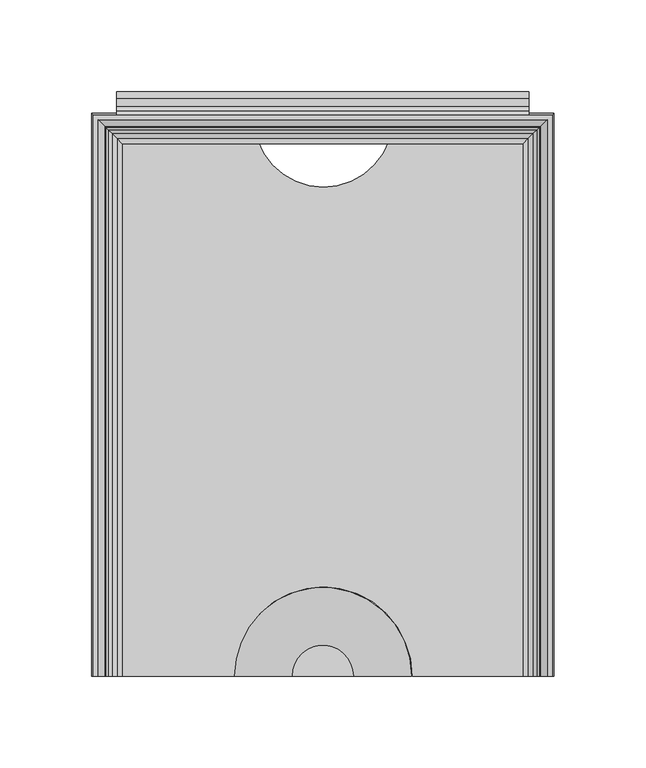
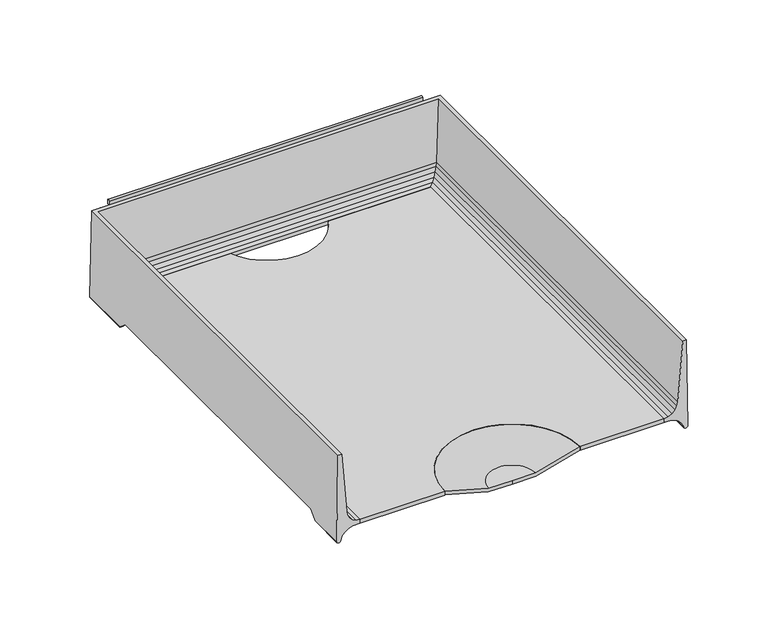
"""IFC4 building model written with IfcOpenShell, lengths in millimetres: furniture geometry."""

from ifc_helpers import new_model, si_unit, point, frame, frame_2d, origin, place, context, project, spatial, polyline, circle_curve, ellipse_curve, trimmed, segment, composite_curve, outline, extrude, source, transform, mapped, element, save
from ifc_brep_helpers import plane_surface, cylinder_surface, revolved_surface, advanced_brep


def furniture_32d38c57(model_context):
    return source(origin(), model_context, "Body", "SolidModel", [
        advanced_brep(
        [(126.0820502, -154.0206082, 933.1382489), (125.1325529, -154.0206082, 998.5376914), (122.4547921, -154.0206082, 998.5376914), (118.8379747, -154.0206082, 953.7506003), (118.4123648, -154.0206082, 951.0171052), (117.0774354, -154.0206082, 948.3160664), (114.9656457, -154.0206082, 946.1671015), (112.28832, -154.0206082, 944.7852261), (109.3133381, -154.0206082, 944.3087052), (109.3133381, -154.0206082, 941.4865971), (114.5666739, -154.0206082, 941.2935987), (117.605351, -154.0206082, 940.2372218), (120.2416, -154.0206082, 938.3933822), (122.2762142, -154.0206082, 935.9014079), (123.1625518, -154.0206082, 932.8581655), (126.0820502, -127.6379698, 933.1382489), (126.0026181, -121.5231874, 938.609372), (126.0026181, 109.0611937, 938.609372), (126.0820502, 115.1759816, 933.1382489), (126.0820502, 153.036442, 933.1382489), (125.1325529, 152.0869447, 998.5376914), (-125.1325529, 152.0869447, 998.5376914), (-125.1325529, -154.0206082, 998.5376914), (-122.4547921, -154.0206082, 998.5376914), (-122.4547921, 149.4091839, 998.5376914), (122.4547921, 149.4091839, 998.5376914), (118.8379747, 145.7923665, 953.7506003), (118.4123648, 145.3667566, 951.0171052), (117.0774354, 144.0318272, 948.3160664), (114.9656457, 141.9200375, 946.1671015), (112.28832, 139.2427118, 944.7852261), (109.3133381, 136.2677299, 944.3087052), (109.3133381, 136.2677299, 941.4865971), (114.5666739, 141.5210656, 941.2935987), (117.605351, 144.5597428, 940.2372218), (120.2416, 147.1959918, 938.3933822), (120.2416, 109.3025941, 938.3933822), (119.9327864, 109.0611937, 938.609372), (119.9327864, -121.5231874, 938.609372), (120.2416, -121.7645876, 938.3933822), (122.2762142, -124.5497344, 935.9014079), (122.2762142, 149.230606, 935.9014079), (122.2762142, 112.0877435, 935.9014079), (123.1625518, -127.9510041, 932.8581655), (123.1625518, 150.1169436, 932.8581655), (123.1625518, 115.4890162, 932.8581655), (-126.0820502, 153.036442, 933.1382489), (-118.8379747, 145.7923665, 953.7506003), (-118.4123648, 145.3667566, 951.0171052), (-117.0774354, 144.0318272, 948.3160664), (-114.9656457, 141.9200375, 946.1671015), (-112.28832, 139.2427118, 944.7852261), (-109.3133381, 136.2677299, 944.3087052), (-109.3133381, 136.2677299, 941.4865971), (-114.5666739, 141.5210656, 941.2935987), (-117.605351, 144.5597428, 940.2372218), (-120.2416, 147.1959918, 938.3933822), (-122.2762142, 149.230606, 935.9014079), (-123.1625518, 150.1169436, 932.8581655), (-126.0820502, -154.0206082, 933.1382489), (-123.1625518, -154.0206082, 932.8581655), (-122.2762142, -154.0206082, 935.9014079), (-120.2416, -154.0206082, 938.3933822), (-117.605351, -154.0206082, 940.2372218), (-114.5666739, -154.0206082, 941.2935987), (-109.3133381, -154.0206082, 941.4865971), (-109.3133381, -154.0206082, 944.3087052), (-112.28832, -154.0206082, 944.7852261), (-114.9656457, -154.0206082, 946.1671015), (-117.0774354, -154.0206082, 948.3160664), (-118.4123648, -154.0206082, 951.0171052), (-118.8379747, -154.0206082, 953.7506003), (-126.0820502, 115.1759816, 933.1382489), (-126.0026181, 109.0611937, 938.609372), (-126.0026181, -121.5231874, 938.609372), (-126.0820502, -127.6379698, 933.1382489), (-120.2416, -121.7645876, 938.3933822), (-119.9327864, -121.5231874, 938.609372), (-119.9327864, 109.0611937, 938.609372), (-120.2416, 109.3025941, 938.3933822), (-122.2762142, 112.0877435, 935.9014079), (-122.2762142, -124.5497344, 935.9014079), (-123.1625518, 115.4890162, 932.8581655), (-123.1625518, -127.9510041, 932.8581655)],
        [
            (0, 1),
            (1, 2),
            (2, 3),
            (3, 4),
            (4, 5),
            (5, 6),
            (6, 7),
            (7, 8),
            (8, 9),
            (9, 10),
            (10, 11),
            (11, 12),
            (12, 13),
            (13, 14),
            (14, 0, circle_curve(frame((124.5859452, -154.0206082, 933.3771685), z_axis=(0.0, -1.0, 0.0), x_axis=(-1.0, 0.0, 0.0)), 1.515062)),
            (0, 15),
            (15, 16),
            (16, 17),
            (17, 18),
            (18, 19),
            (19, 20),
            (20, 1),
            (20, 21),
            (21, 22),
            (22, 23),
            (23, 24),
            (24, 25),
            (25, 2),
            (25, 26),
            (26, 3),
            (26, 27),
            (27, 4),
            (27, 28),
            (28, 5),
            (28, 29),
            (29, 6),
            (29, 30),
            (30, 7),
            (30, 31),
            (31, 8),
            (31, 32),
            (32, 9),
            (32, 33),
            (33, 10),
            (33, 34),
            (34, 11),
            (34, 35),
            (35, 36),
            (36, 37),
            (37, 38),
            (38, 39),
            (39, 12),
            (39, 40),
            (40, 13),
            (35, 41),
            (41, 42),
            (42, 36),
            (40, 43),
            (43, 14),
            (41, 44),
            (44, 45),
            (45, 42),
            (43, 15, ellipse_curve(frame((124.5859452, -127.3709422, 933.3771685), z_axis=(0.0, -0.6667949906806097, 0.7452411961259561), x_axis=(0.0, -0.7452411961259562, -0.6667949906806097)), 2.2721556, 1.515062)),
            (44, 19, ellipse_curve(frame((124.5859452, 151.540337, 933.3771685), z_axis=(0.7071067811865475, -0.7071067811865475, 0.0), x_axis=(-0.7071067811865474, -0.7071067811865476, 0.0)), 2.1426212, 1.515062)),
            (18, 45, ellipse_curve(frame((124.5859452, 114.9089538, 933.3771685), z_axis=(0.0, 0.6667946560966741, 0.7452414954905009), x_axis=(0.0, -0.7452414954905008, 0.6667946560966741)), 2.2721567, 1.515062)),
            (19, 46),
            (46, 21),
            (24, 47),
            (47, 26),
            (47, 48),
            (48, 27),
            (48, 49),
            (49, 28),
            (49, 50),
            (50, 29),
            (50, 51),
            (51, 30),
            (51, 52),
            (52, 31),
            (52, 53),
            (53, 32),
            (53, 54),
            (54, 33),
            (54, 55),
            (55, 34),
            (55, 56),
            (56, 35),
            (56, 57),
            (57, 41),
            (57, 58),
            (58, 44),
            (58, 46, ellipse_curve(frame((-124.5859452, 151.540337, 933.3771685), z_axis=(0.7071067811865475, 0.7071067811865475, 0.0), x_axis=(0.7071067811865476, -0.7071067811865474, 0.0)), 2.1426212, 1.515062)),
            (22, 59),
            (59, 60, circle_curve(frame((-124.5859452, -154.0206082, 933.3771685), z_axis=(0.0, -1.0, 0.0), x_axis=(1.0, 0.0, 0.0)), 1.515062)),
            (60, 61),
            (61, 62),
            (62, 63),
            (63, 64),
            (64, 65),
            (65, 66),
            (66, 67),
            (67, 68),
            (68, 69),
            (69, 70),
            (70, 71),
            (71, 23),
            (46, 72),
            (72, 73),
            (73, 74),
            (74, 75),
            (75, 59),
            (71, 47),
            (70, 48),
            (69, 49),
            (68, 50),
            (67, 51),
            (66, 52),
            (65, 53),
            (64, 54),
            (63, 55),
            (62, 76),
            (76, 77),
            (77, 78),
            (78, 79),
            (79, 56),
            (79, 80),
            (80, 57),
            (61, 81),
            (81, 76),
            (80, 82),
            (82, 58),
            (60, 83),
            (83, 81),
            (82, 72, ellipse_curve(frame((-124.5859452, 114.9089538, 933.3771685), z_axis=(0.0, 0.6667946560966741, 0.7452414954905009), x_axis=(0.0, 0.7452414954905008, -0.6667946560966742)), 2.2721567, 1.515062)),
            (75, 83, ellipse_curve(frame((-124.5859452, -127.3709422, 933.3771685), z_axis=(0.0, -0.6667949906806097, 0.7452411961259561), x_axis=(0.0, 0.745241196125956, 0.6667949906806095)), 2.2721556, 1.515062)),
            (38, 16),
            (74, 77),
            (37, 17),
            (73, 78),
        ],
        [
            plane_surface(frame((127.0, -154.0206082, 931.8625), z_axis=(0.0, -1.0, 0.0), x_axis=(0.0, 0.0, 1.0))),
            plane_surface(frame((126.0820502, -154.0206082, 933.1382489), z_axis=(0.9998946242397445, 0.0, 0.01451690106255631), x_axis=(0.0, 1.0, 0.0))),
            plane_surface(frame((125.1325529, -154.0206082, 998.5376914), z_axis=(0.0, 0.0, 1.0), x_axis=(0.0, 1.0, 0.0))),
            plane_surface(frame((122.4547921, -154.0206082, 998.5376914), z_axis=(-0.9967551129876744, 0.0, 0.08049375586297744), x_axis=(0.0, 1.0, 0.0))),
            plane_surface(frame((118.8379747, -154.0206082, 953.7506003), z_axis=(-0.9880945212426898, 0.0, 0.15384803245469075), x_axis=(0.0, 1.0, 0.0))),
            plane_surface(frame((118.4123648, -154.0206082, 951.0171052), z_axis=(-0.8964873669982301, 0.0, 0.44306929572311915), x_axis=(0.0, 1.0, 0.0))),
            plane_surface(frame((117.0774354, -154.0206082, 948.3160664), z_axis=(-0.7132491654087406, 0.0, 0.7009105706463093), x_axis=(0.0, 1.0, 0.0))),
            plane_surface(frame((114.9656457, -154.0206082, 946.1671015), z_axis=(-0.45865074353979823, 0.0, 0.8886166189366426), x_axis=(0.0, 1.0, 0.0))),
            plane_surface(frame((112.28832, -154.0206082, 944.7852261), z_axis=(-0.15816001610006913, 0.0, 0.987413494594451), x_axis=(0.0, 1.0, 0.0))),
            plane_surface(frame((109.3133381, -154.0206082, 944.3087052), z_axis=(-1.0, 0.0, 0.0), x_axis=(0.0, 1.0, 0.0))),
            plane_surface(frame((109.3133381, -154.0206082, 941.4865971), z_axis=(-0.036713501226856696, 0.0, -0.9993258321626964), x_axis=(0.0, 1.0, 0.0))),
            plane_surface(frame((114.5666739, -154.0206082, 941.2935987), z_axis=(-0.3283669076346, 0.0, -0.9445502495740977), x_axis=(0.0, 1.0, 0.0))),
            plane_surface(frame((117.605351, -154.0206082, 940.2372218), z_axis=(-0.5731421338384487, 0.0, -0.819455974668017), x_axis=(0.0, 1.0, 0.0))),
            plane_surface(frame((120.2416, -154.0206082, 938.3933822), z_axis=(-0.77460799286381, 0.0, -0.6324416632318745), x_axis=(0.0, 1.0, 0.0))),
            plane_surface(frame((122.2762142, -154.0206082, 935.9014079), z_axis=(-0.9601080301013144, 0.0, -0.2796293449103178), x_axis=(0.0, 1.0, 0.0))),
            cylinder_surface(frame((124.5859452, -154.0206082, 933.3771685), z_axis=(0.0, -1.0, 0.0), x_axis=(-1.0, 0.0, 0.0)), 1.515062),
            plane_surface(frame((126.0820502, 153.036442, 933.1382489), z_axis=(0.0, 0.9998946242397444, 0.01451690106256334), x_axis=(-1.0, 0.0, 0.0))),
            plane_surface(frame((122.4547921, 149.4091839, 998.5376914), z_axis=(0.0, -0.9967551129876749, 0.08049375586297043), x_axis=(-1.0, 0.0, 0.0))),
            plane_surface(frame((118.8379747, 145.7923665, 953.7506003), z_axis=(0.0, -0.9880945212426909, 0.15384803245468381), x_axis=(-1.0, 0.0, 0.0))),
            plane_surface(frame((118.4123648, 145.3667566, 951.0171052), z_axis=(0.0, -0.8964873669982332, 0.4430692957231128), x_axis=(-1.0, 0.0, 0.0))),
            plane_surface(frame((117.0774354, 144.0318272, 948.3160664), z_axis=(0.0, -0.7132491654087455, 0.7009105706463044), x_axis=(-1.0, 0.0, 0.0))),
            plane_surface(frame((114.9656457, 141.9200375, 946.1671015), z_axis=(0.0, -0.4586507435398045, 0.8886166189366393), x_axis=(-1.0, 0.0, 0.0))),
            plane_surface(frame((112.28832, 139.2427118, 944.7852261), z_axis=(0.0, -0.15816001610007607, 0.9874134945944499), x_axis=(-1.0, 0.0, 0.0))),
            plane_surface(frame((109.3133381, 136.2677299, 944.3087052), z_axis=(0.0, -1.0, 0.0), x_axis=(-1.0, 0.0, 0.0))),
            plane_surface(frame((109.3133381, 136.2677299, 941.4865971), z_axis=(0.0, -0.03671350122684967, -0.9993258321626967), x_axis=(-1.0, 0.0, 0.0))),
            plane_surface(frame((114.5666739, 141.5210656, 941.2935987), z_axis=(0.0, -0.32836690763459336, -0.9445502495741), x_axis=(-1.0, 0.0, 0.0))),
            plane_surface(frame((117.605351, 144.5597428, 940.2372218), z_axis=(0.0, -0.5731421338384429, -0.819455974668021), x_axis=(-1.0, 0.0, 0.0))),
            plane_surface(frame((120.2416, 147.1959918, 938.3933822), z_axis=(0.0, -0.7746079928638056, -0.6324416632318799), x_axis=(-1.0, 0.0, 0.0))),
            plane_surface(frame((122.2762142, 149.230606, 935.9014079), z_axis=(0.0, -0.9601080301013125, -0.27962934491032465), x_axis=(-1.0, 0.0, 0.0))),
            cylinder_surface(frame((127.0, 151.540337, 933.3771685), z_axis=(1.0, 0.0, 0.0), x_axis=(0.0, -1.0, 0.0)), 1.515062),
            plane_surface(frame((-127.0, -154.0206082, 931.8625), z_axis=(0.0, -1.0, 0.0), x_axis=(0.0, 0.0, 1.0))),
            plane_surface(frame((-126.0820502, 153.036442, 933.1382489), z_axis=(-0.9998946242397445, 0.0, 0.01451690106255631), x_axis=(0.0, -1.0, 0.0))),
            plane_surface(frame((-122.4547921, 149.4091839, 998.5376914), z_axis=(0.9967551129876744, 0.0, 0.08049375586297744), x_axis=(0.0, -1.0, 0.0))),
            plane_surface(frame((-118.8379747, 145.7923665, 953.7506003), z_axis=(0.9880945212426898, 0.0, 0.15384803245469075), x_axis=(0.0, -1.0, 0.0))),
            plane_surface(frame((-118.4123648, 145.3667566, 951.0171052), z_axis=(0.8964873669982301, 0.0, 0.44306929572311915), x_axis=(0.0, -1.0, 0.0))),
            plane_surface(frame((-117.0774354, 144.0318272, 948.3160664), z_axis=(0.7132491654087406, 0.0, 0.7009105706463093), x_axis=(0.0, -1.0, 0.0))),
            plane_surface(frame((-114.9656457, 141.9200375, 946.1671015), z_axis=(0.45865074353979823, 0.0, 0.8886166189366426), x_axis=(0.0, -1.0, 0.0))),
            plane_surface(frame((-112.28832, 139.2427118, 944.7852261), z_axis=(0.15816001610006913, 0.0, 0.987413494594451), x_axis=(0.0, -1.0, 0.0))),
            plane_surface(frame((-109.3133381, 136.2677299, 944.3087052), z_axis=(1.0, 0.0, 0.0), x_axis=(0.0, -1.0, 0.0))),
            plane_surface(frame((-109.3133381, 136.2677299, 941.4865971), z_axis=(0.036713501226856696, 0.0, -0.9993258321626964), x_axis=(0.0, -1.0, 0.0))),
            plane_surface(frame((-114.5666739, 141.5210656, 941.2935987), z_axis=(0.3283669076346, 0.0, -0.9445502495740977), x_axis=(0.0, -1.0, 0.0))),
            plane_surface(frame((-117.605351, 144.5597428, 940.2372218), z_axis=(0.5731421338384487, 0.0, -0.819455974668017), x_axis=(0.0, -1.0, 0.0))),
            plane_surface(frame((-120.2416, 147.1959918, 938.3933822), z_axis=(0.77460799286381, 0.0, -0.6324416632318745), x_axis=(0.0, -1.0, 0.0))),
            plane_surface(frame((-122.2762142, 149.230606, 935.9014079), z_axis=(0.9601080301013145, 0.0, -0.2796293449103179), x_axis=(0.0, -1.0, 0.0))),
            cylinder_surface(frame((-124.5859452, 153.9543918, 933.3771685), z_axis=(0.0, 1.0, 0.0), x_axis=(1.0, 0.0, 0.0)), 1.515062),
            plane_surface(frame((-127.0, -130.1695728, 930.8731296), z_axis=(0.0, 0.6667949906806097, -0.7452411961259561), x_axis=(1.0, 0.0, 0.0))),
            plane_surface(frame((-127.0, -121.5231874, 938.609372), z_axis=(0.0, 0.0, -1.0), x_axis=(1.0, 0.0, 0.0))),
            plane_surface(frame((-127.0, 109.0611937, 938.609372), z_axis=(0.0, -0.6667946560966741, -0.7452414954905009), x_axis=(1.0, 0.0, 0.0))),
        ],
        [
            (0, [[1, 2, 3, 4, 5, 6, 7, 8, 9, 10, 11, 12, 13, 14, 15]]),
            (1, [[-1, 16, 17, 18, 19, 20, 21, 22]]),
            (2, [[-2, -22, 23, 24, 25, 26, 27, 28]]),
            (3, [[-3, -28, 29, 30]]),
            (4, [[-4, -30, 31, 32]]),
            (5, [[-5, -32, 33, 34]]),
            (6, [[-6, -34, 35, 36]]),
            (7, [[-7, -36, 37, 38]]),
            (8, [[-8, -38, 39, 40]]),
            (9, [[-9, -40, 41, 42]]),
            (10, [[-10, -42, 43, 44]]),
            (11, [[-11, -44, 45, 46]]),
            (12, [[-12, -46, 47, 48, 49, 50, 51, 52]]),
            (13, [[-13, -52, 53, 54]]),
            (13, [[55, 56, 57, -48]]),
            (14, [[-14, -54, 58, 59]]),
            (14, [[60, 61, 62, -56]]),
            (15, [[-15, -59, 63, -16]]),
            (15, [[64, -20, 65, -61]]),
            (16, [[-21, 66, 67, -23]]),
            (17, [[-27, 68, 69, -29]]),
            (18, [[-31, -69, 70, 71]]),
            (19, [[-33, -71, 72, 73]]),
            (20, [[-35, -73, 74, 75]]),
            (21, [[-37, -75, 76, 77]]),
            (22, [[-39, -77, 78, 79]]),
            (23, [[-41, -79, 80, 81]]),
            (24, [[-43, -81, 82, 83]]),
            (25, [[-45, -83, 84, 85]]),
            (26, [[-47, -85, 86, 87]]),
            (27, [[-55, -87, 88, 89]]),
            (28, [[-60, -89, 90, 91]]),
            (29, [[-64, -91, 92, -66]]),
            (30, [[-25, 93, 94, 95, 96, 97, 98, 99, 100, 101, 102, 103, 104, 105, 106]]),
            (31, [[-24, -67, 107, 108, 109, 110, 111, -93]]),
            (32, [[-26, -106, 112, -68]]),
            (33, [[-70, -112, -105, 113]]),
            (34, [[-72, -113, -104, 114]]),
            (35, [[-74, -114, -103, 115]]),
            (36, [[-76, -115, -102, 116]]),
            (37, [[-78, -116, -101, 117]]),
            (38, [[-80, -117, -100, 118]]),
            (39, [[-82, -118, -99, 119]]),
            (40, [[-84, -119, -98, 120]]),
            (41, [[-86, -120, -97, 121, 122, 123, 124, 125]]),
            (42, [[-88, -125, 126, 127]]),
            (42, [[-96, 128, 129, -121]]),
            (43, [[-90, -127, 130, 131]]),
            (43, [[-95, 132, 133, -128]]),
            (44, [[-92, -131, 134, -107]]),
            (44, [[-94, -111, 135, -132]]),
            (45, [[136, -17, -63, -58, -53, -51]]),
            (45, [[137, -122, -129, -133, -135, -110]]),
            (46, [[-136, -50, 138, -18]]),
            (46, [[-137, -109, 139, -123]]),
            (47, [[-138, -49, -57, -62, -65, -19]]),
            (47, [[-139, -108, -134, -130, -126, -124]]),
        ],
    ),
        extrude(outline(composite_curve([segment(polyline([(-109.3647805, 138.2769393), (-35.6610422, 138.2769393)]), True, "CONTINUOUS"), segment(trimmed(circle_curve(frame_2d((0.3369133, 150.6584166)), 38.0677525), [point((-35.6610422, 138.2769393))], [point((36.3348688, 138.2769393))], True, "CARTESIAN"), True, "CONTINUOUS"), segment(polyline([(36.3348688, 138.2769393), (109.6504969, 138.2769393), (109.6504969, -153.9875), (48.9112184, -153.9875)]), True, "CONTINUOUS"), segment(trimmed(circle_curve(frame_2d((0.2842795, -153.9323196)), 48.6269702), [point((48.9112184, -153.9875))], [point((-48.3426595, -153.9875))], True, "CARTESIAN"), True, "CONTINUOUS"), segment(polyline([(-48.3426595, -153.9875), (-109.3647805, -153.9875), (-109.3647805, 138.2769393)]), True, "CONTINUOUS")], self_intersect=False)), frame((0.0, 0.0, 941.4689677), z_axis=(0.0, 0.0, 1.0), x_axis=(1.0, 0.0, 0.0)), (0.0, 0.0, 1.0), 2.8395461),
        extrude(outline(composite_curve([segment(trimmed(circle_curve(frame_2d((162.7186949, 982.7082343)), 1.9049988), [point((164.6236937, 982.7082343))], [point((160.8136962, 982.7082343))], False, "CARTESIAN"), True, "CONTINUOUS"), segment(polyline([(160.8136962, 982.7082343), (160.8136962, 986.1372311), (160.0516969, 986.8992303), (156.4380325, 986.8992303), (152.1427596, 984.5518331), (152.1427596, 993.0566285), (156.4380325, 990.7092312), (160.8136928, 990.7092312)]), True, "CONTINUOUS"), segment(trimmed(circle_curve(frame_2d((160.8136928, 986.8992303)), 3.8100009), [point((160.8136928, 990.7092312))], [point((164.6236937, 986.8992303))], False, "CARTESIAN"), True, "CONTINUOUS"), segment(polyline([(164.6236937, 986.8992303), (164.6236937, 982.7082343)]), True, "CONTINUOUS")], self_intersect=False)), frame((-112.5397809, 0.0, 0.0), z_axis=(1.0, 0.0, 0.0), x_axis=(0.0, 1.0, 0.0)), (0.0, 0.0, 1.0), 225.0795617),
        advanced_brep(
        [(-16.8929028, -153.9875, 935.434375), (-48.4614622, -153.9875, 944.3420432), (-48.4614622, -153.9875, 941.7505018), (-16.9249292, -153.9875, 932.8518704), (0.0, -153.9875, 932.8518704), (0.0, -153.9875, 935.434375), (16.8929028, -153.9875, 935.434375), (16.9249292, -153.9875, 932.8518704), (48.4614622, -153.9875, 941.7505018), (48.4614622, -153.9875, 944.3420432)],
        [
            (0, 1),
            (1, 2),
            (2, 3),
            (3, 4),
            (4, 5),
            (5, 0),
            (6, 5),
            (4, 7),
            (7, 8),
            (8, 9),
            (9, 6),
            (9, 1, circle_curve(frame((0.0, -153.9875, 944.3420432), z_axis=(0.0, 0.0, 1.0), x_axis=(-1.0, 0.0, 0.0)), 48.4614622)),
            (0, 6, circle_curve(frame((0.0, -153.9875, 935.434375), z_axis=(0.0, 0.0, -1.0), x_axis=(-1.0, 0.0, 0.0)), 16.8929028)),
            (8, 2, circle_curve(frame((0.0, -153.9875, 941.7505018), z_axis=(0.0, 0.0, 1.0), x_axis=(-1.0, 0.0, 0.0)), 48.4614622)),
            (7, 3, circle_curve(frame((0.0, -153.9875, 932.8518704), z_axis=(0.0, 0.0, 1.0), x_axis=(-1.0, 0.0, 0.0)), 16.9249292)),
        ],
        [
            plane_surface(frame((0.0, -153.9875, 931.8625), z_axis=(0.0, -1.0, 0.0), x_axis=(-1.0, 0.0, 0.0))),
            plane_surface(frame((0.0, -153.9875, 931.8625), z_axis=(0.0, -1.0, 0.0), x_axis=(1.0, 0.0, 0.0))),
            revolved_surface(polyline([(-48.4614622, -153.9875, 944.3420432), (-16.8929028, -153.9875, 935.434375)]), (0.0, -153.9875, 931.8625), (0.0, 0.0, 1.0)),
            cylinder_surface(frame((0.0, -153.9875, 931.8625), z_axis=(0.0, 0.0, 1.0), x_axis=(-1.0, 0.0, 0.0)), 48.4614622),
            revolved_surface(polyline([(-16.9249292, -153.9875, 932.8518704), (-48.4614622, -153.9875, 941.7505018)]), (0.0, -153.9875, 931.8625), (0.0, 0.0, 1.0)),
            plane_surface(frame((0.0, -153.9875, 932.8518704), z_axis=(0.0, 0.0, -1.0), x_axis=(-1.0, 0.0, 0.0))),
            plane_surface(frame((0.0, -153.9875, 935.434375), z_axis=(0.0, 0.0, 1.0), x_axis=(-1.0, 0.0, 0.0))),
        ],
        [
            (0, [[1, 2, 3, 4, 5, 6]]),
            (1, [[7, -5, 8, 9, 10, 11]]),
            (2, [[12, -1, 13, -11]]),
            (3, [[14, -2, -12, -10]]),
            (4, [[15, -3, -14, -9]]),
            (5, [[-4, -15, -8]]),
            (6, [[-13, -6, -7]]),
        ],
    ),
        extrude(outline(composite_curve([segment(polyline([(153.9875, 998.5375), (152.1427596, 998.5375), (152.1427596, 1001.3690333)]), True, "CONTINUOUS"), segment(trimmed(circle_curve(frame_2d((153.0651298, 1001.0637665)), 0.9715733), [point((152.1427596, 1001.3690333))], [point((153.9875, 1001.3690333))], False, "CARTESIAN"), True, "CONTINUOUS"), segment(polyline([(153.9875, 1001.3690333), (153.9875, 998.5375)]), True, "CONTINUOUS")], self_intersect=False)), frame((-112.5397809, 0.0, 0.0), z_axis=(1.0, 0.0, 0.0), x_axis=(0.0, 1.0, 0.0)), (0.0, 0.0, 1.0), 225.0795617),
    ])


if __name__ == "__main__":
    model = new_model("IFC4")
    model_context = context("Model", 3, world=origin())
    ifc_project = project(units=[si_unit("LENGTHUNIT", "METRE", prefix="MILLI")], contexts=[model_context])
    site = spatial("IfcSite", under=ifc_project)
    building = spatial("IfcBuilding", under=site)
    placement = place(None, origin())
    furniture_shape = furniture_32d38c57(model_context)
    element("IfcFurniture", 1, ObjectType="HermanMiller_ThrivePortfolio_Y7216_PaperTray : 3\"H x 12\"D x 10\"W", at=placement, inside=building, context=model_context, shape_type="MappedRepresentation", body=[
        mapped(furniture_shape, transform((0.0, 0.0, 0.0), x_axis=(1.0, 0.0, 0.0), y_axis=(0.0, 1.0, 0.0), z_axis=(0.0, 0.0, 1.0))),
    ])
    save(model, "model.ifc")
